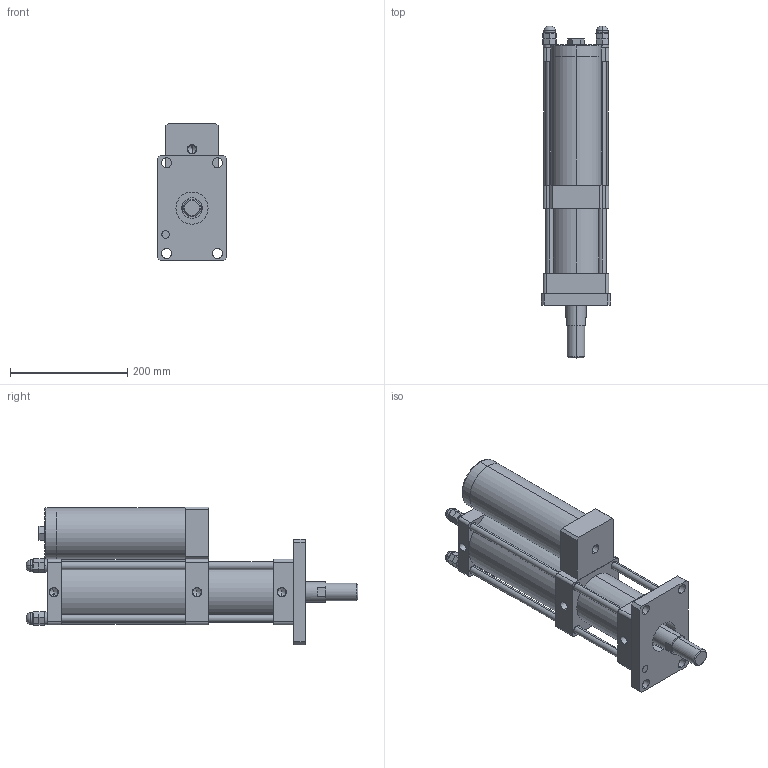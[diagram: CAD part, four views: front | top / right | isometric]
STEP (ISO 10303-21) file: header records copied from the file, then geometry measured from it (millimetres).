
FILE_DESCRIPTION (( 'STEP AP203' ), '1' );
FILE_NAME ('CPT-80-50-10-8T.STEP', '2016-03-11T03:03:15', ( 'WIN' ), ( '' ), 'SwSTEP 2.0', 'SolidWorks 2014', '' );
FILE_SCHEMA (( 'CONFIG_CONTROL_DESIGN' ));
Length unit declared in the file: millimetre
Products named in the file (1): CPT-80-50-10-8T
Bounding box: 118 x 567.07 x 235 mm (x, y, z)
Volume: 5105488.4 mm3; surface area: 570867 mm2
Topology: 17 solids, 17 shells, 388 faces, 959 edges, 560 vertices
Faces by surface type: plane 180, cylinder 90, bspline 48, torus 46, cone 24
Entity records: 12571 total; most frequent: CARTESIAN_POINT 3666, DIRECTION 1872, ORIENTED_EDGE 1786, EDGE_CURVE 893, AXIS2_PLACEMENT_3D 686, VERTEX_POINT 560, LINE 500, VECTOR 500
